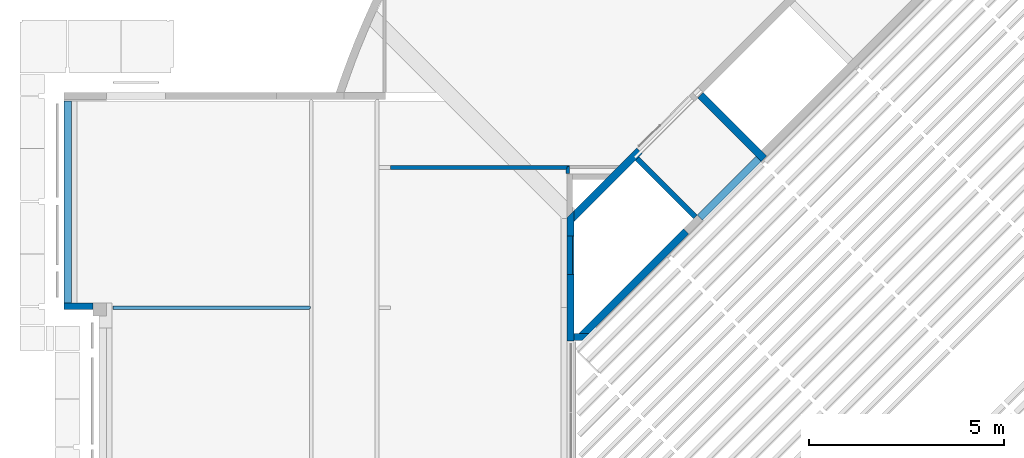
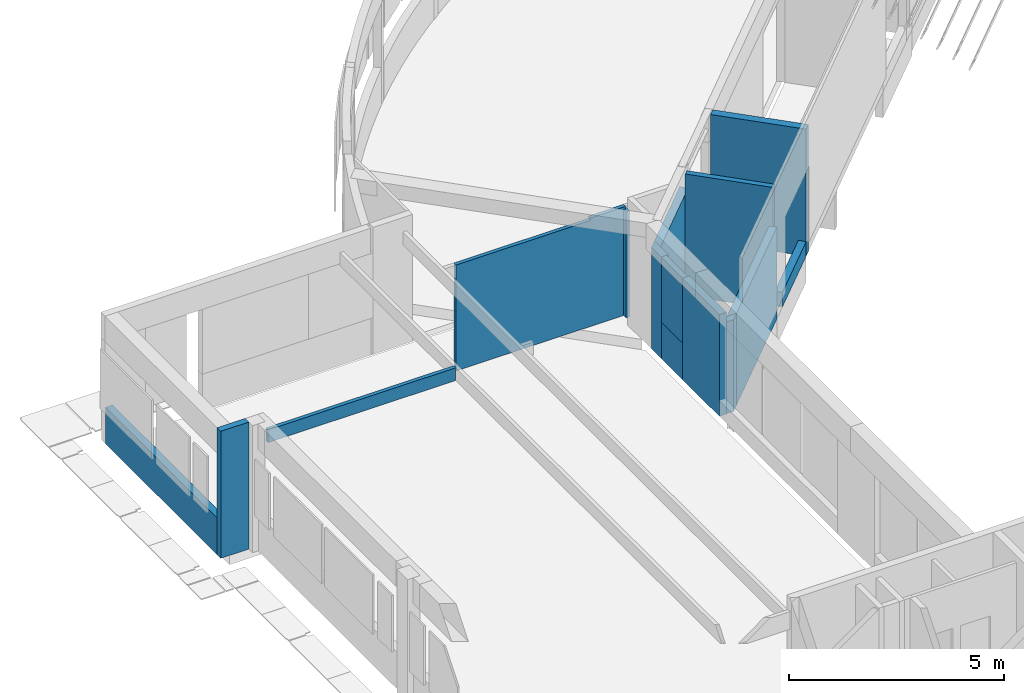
# One storey, part 26 of 37: 15 walls.
"""IFC4X3_ADD2 building model written with IfcOpenShell, lengths in millimetres."""

from ifc_helpers import new_model, si_unit, direction, frame, frame_2d, origin_with_axes, origin_2d_with_axis, place, context, subcontext, project, spatial, polyline, rectangle, outline, extrude, source, transform, mapped, material, type_object, type_shapes, element, save


model = new_model("IFC4X3_ADD2")

# Units and contexts
model_context = context("Model", 3, precision=1e-05, world=origin_with_axes(), true_north=direction((0.0, 1.0)))
body_context = subcontext(model_context, "Body", "Model", "MODEL_VIEW")
ifc_project = project(units=[si_unit("LENGTHUNIT", "METRE", prefix="MILLI"), si_unit("AREAUNIT", "SQUARE_METRE"), si_unit("VOLUMEUNIT", "CUBIC_METRE"), si_unit("PLANEANGLEUNIT", "RADIAN"), si_unit("TIMEUNIT", "SECOND"), si_unit("MASSUNIT", "GRAM")], contexts=[model_context])

# Site, building, storey
site_placement = place(None, origin_with_axes())
site = spatial("IfcSite", under=ifc_project, at=site_placement, Name="Site", CompositionType="ELEMENT")
building_placement = place(site_placement, origin_with_axes())
building = spatial("IfcBuilding", under=site, at=building_placement, Name="IFC Building Story")
storey_placement = place(building_placement, frame((0.0, 0.0, 3600.0), z_axis=(0.0, 0.0, 1.0), x_axis=(1.0, 0.0, 0.0)))
storey = spatial("IfcBuildingStorey", under=building, at=storey_placement, Name="010", Elevation=3600.0)

# Walls
ifc_material_1 = material(Name="BB_Beton_Bestaand")
wall_type_1 = type_object("IfcWallType", Name="BB_Beton_Bestaand 200", PredefinedType="NOTDEFINED", material=ifc_material_1)
wall_1_placement = place(storey_placement, origin_with_axes())
element("IfcWall", 1, at=wall_1_placement, inside=storey, type_object=wall_type_1, Name="Basic Wall:BB_XX_Wand uit beton, 200 mm", ObjectType="Basic Wall:BB_XX_Wand uit beton, 200 mm", PredefinedType="SOLIDWALL", context=body_context, shape_type="SweptSolid", body=[
    extrude(outline(polyline([(-838.7978912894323, -697.3765350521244), (768.0872131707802, 909.5085694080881), (909.5085694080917, 768.0872131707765), (-838.7978912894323, -980.2192475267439), (-838.7978912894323, -697.3765350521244)])), frame((-37766.20210871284, 28388.21347901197, -200.0), z_axis=(0.0, 0.0, 1.0), x_axis=(1.0, 0.0, 0.0)), (0.0, 0.0, 1.0), 2880.0),
])
wall_2_placement = place(storey_placement, origin_with_axes())
element("IfcWall", 2, at=wall_2_placement, inside=storey, type_object=wall_type_1, Name="Basic Wall:BB_XX_Wand uit beton, 200 mm", ObjectType="Basic Wall:BB_XX_Wand uit beton, 200 mm", PredefinedType="SOLIDWALL", context=body_context, shape_type="SweptSolid", body=[
    extrude(rectangle(XDim=2299.999999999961, YDim=199.9999999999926, at=frame_2d((0.0, 0.0), x_axis=(0.707106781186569, -0.707106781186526))), frame((-34551.52543263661, 29835.12320212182, -200.0), z_axis=(0.0, 0.0, 1.0), x_axis=(1.0, 0.0, 0.0)), (0.0, 0.0, 1.0), 3600.0),
])
wall_type_2 = type_object("IfcWallType", Name="BB_Beton_Bestaand 190", PredefinedType="NOTDEFINED", material=ifc_material_1)
wall_3_placement = place(storey_placement, origin_with_axes())
element("IfcWall", 3, at=wall_3_placement, inside=storey, type_object=wall_type_2, Name="Basic Wall:BB_XX_Wand uit beton, 190 mm", ObjectType="Basic Wall:BB_XX_Wand uit beton, 190 mm", PredefinedType="SOLIDWALL", context=body_context, shape_type="SweptSolid", body=[
    extrude(rectangle(XDim=5209.99999999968, YDim=189.9999999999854, at=frame_2d((0.0, 0.0), x_axis=(0.0, 1.0))), frame((-51600.0, 27899.99999999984, -200.0), z_axis=(0.0, 0.0, 1.0), x_axis=(1.0, 0.0, 0.0)), (0.0, 0.0, 1.0), 1040.0),
])
wall_4_placement = place(storey_placement, origin_with_axes())
element("IfcWall", 4, at=wall_4_placement, inside=storey, type_object=wall_type_2, Name="Basic Wall:BB_XX_Wand uit beton, 190 mm", ObjectType="Basic Wall:BB_XX_Wand uit beton, 190 mm", PredefinedType="SOLIDWALL", context=body_context, shape_type="SweptSolid", body=[
    extrude(rectangle(XDim=1710.0, YDim=190.0, at=frame_2d((0.0, 0.0), x_axis=(0.0, 1.0))), frame((-38700.0, 25200.0, -200.0), z_axis=(0.0, 0.0, 1.0), x_axis=(1.0, 0.0, 0.0)), (0.0, 0.0, 1.0), 2880.0),
])
wall_5_placement = place(storey_placement, origin_with_axes())
element("IfcWall", 5, at=wall_5_placement, inside=storey, type_object=wall_type_2, Name="Basic Wall:BB_XX_Wand uit beton, 190 mm", ObjectType="Basic Wall:BB_XX_Wand uit beton, 190 mm", PredefinedType="SOLIDWALL", context=body_context, shape_type="SweptSolid", body=[
    extrude(rectangle(XDim=990.0000000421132, YDim=190.0, at=frame_2d((0.0, 0.0), x_axis=(0.0, 1.0))), frame((-38700.0, 26549.99999997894, -200.0), z_axis=(0.0, 0.0, 1.0), x_axis=(1.0, 0.0, 0.0)), (0.0, 0.0, 1.0), 1040.0),
])
wall_6_placement = place(storey_placement, origin_with_axes())
element("IfcWall", 6, at=wall_6_placement, inside=storey, type_object=wall_type_2, Name="Basic Wall:BB_XX_Wand uit beton, 190 mm", ObjectType="Basic Wall:BB_XX_Wand uit beton, 190 mm", PredefinedType="SOLIDWALL", context=body_context, shape_type="SweptSolid", body=[
    extrude(outline(polyline([(-95.0, -275.4184719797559), (-95.0, 180.4184719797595), (95.0, 370.4184719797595), (95.0, -275.4184719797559), (-95.0, -275.4184719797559)])), frame((-38700.0, 27320.41847198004, -200.0), z_axis=(0.0, 0.0, 1.0), x_axis=(1.0, 0.0, 0.0)), (0.0, 0.0, 1.0), 2880.0),
])
wall_type_3 = type_object("IfcWallType", Name="BB_Beton_Bestaand 170", PredefinedType="NOTDEFINED", material=ifc_material_1)
wall_7_placement = place(storey_placement, origin_with_axes())
element("IfcWall", 7, at=wall_7_placement, inside=storey, type_object=wall_type_3, Name="Basic Wall:BB_XX_Wand uit beton, 170 mm", ObjectType="Basic Wall:BB_XX_Wand uit beton, 170 mm", PredefinedType="SOLIDWALL", context=body_context, shape_type="SweptSolid", body=[
    extrude(rectangle(XDim=750.0000000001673, YDim=169.9999999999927, at=origin_2d_with_axis()), frame((-51320.00000000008, 25240.0, -200.0), z_axis=(0.0, 0.0, 1.0), x_axis=(1.0, 0.0, 0.0)), (0.0, 0.0, 1.0), 3600.0),
])
ifc_material_2 = material(Name="BB_Metselwerk_Betonsteen")
wall_type_4 = type_object("IfcWallType", Name="BB_Metselwerk_Betonsteen 190", PredefinedType="NOTDEFINED", material=ifc_material_2)
wall_8_placement = place(storey_placement, origin_with_axes())
element("IfcWall", 8, at=wall_8_placement, inside=storey, type_object=wall_type_4, Name="Basic Wall:BB_03.09.24#03_Wand uit metselwerk, 190 mm", ObjectType="Basic Wall:BB_03.09.24#03_Wand uit metselwerk, 190 mm", PredefinedType="SOLIDWALL", context=body_context, shape_type="SweptSolid", body=[
    extrude(rectangle(XDim=2130.000000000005, YDim=190.0000000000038, at=frame_2d((0.0, 0.0), x_axis=(0.7071067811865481, 0.7071067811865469))), frame((-34629.30717856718, 28265.34614788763, -200.0), z_axis=(0.0, 0.0, 1.0), x_axis=(1.0, 0.0, 0.0)), (0.0, 0.0, 1.0), 415.0),
])
wall_9_placement = place(storey_placement, origin_with_axes())
element("IfcWall", 9, at=wall_9_placement, inside=storey, type_object=wall_type_4, Name="Basic Wall:BB_03.09.24#05_Wand uit metselwerk_EI60, 190 mm", ObjectType="Basic Wall:BB_03.09.24#05_Wand uit metselwerk_EI60, 190 mm", PredefinedType="SOLIDWALL", context=body_context, shape_type="SweptSolid", body=[
    extrude(outline(polyline([(1374.038662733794, 1239.688374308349), (-1172.513230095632, -1306.863518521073), (-1441.213806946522, -1306.863518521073), (1239.688374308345, 1374.038662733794), (1374.038662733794, 1239.688374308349)])), frame((-37042.7898079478, 25851.8635185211, -200.0), z_axis=(0.0, 0.0, 1.0), x_axis=(1.0, 0.0, 0.0)), (0.0, 0.0, 1.0), 2600.0),
])
wall_type_5 = type_object("IfcWallType", Name="BB_Metselwerk_Betonsteen 0", PredefinedType="NOTDEFINED", material=ifc_material_2)
wall_10_placement = place(storey_placement, origin_with_axes())
element("IfcWall", 10, at=wall_10_placement, inside=storey, type_object=wall_type_5, Name="Basic Wall:BB_03.09.24#05_Wand uit metselwerk_EI60, 190 mm", ObjectType="Basic Wall:BB_03.09.24#05_Wand uit metselwerk_EI60, 190 mm", PredefinedType="SOLIDWALL", context=body_context, shape_type="SweptSolid", body=[
    extrude(outline(polyline([(-147.3484809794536, 95.0), (242.3484809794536, 95.0), (52.3484809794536, -95.0), (-147.3484809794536, -95.0), (-147.3484809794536, 95.0)])), frame((-38457.65151902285, 24450.0, -200.0), z_axis=(0.0, 0.0, 1.0), x_axis=(1.0, 0.0, 0.0)), (0.0, 0.0, 1.0), 2600.0),
])
wall_type_6 = type_object("IfcWallType", Name="Basic Wall_BB_10.01.41#01_Gipskartonwand_MS100 _ 25.50.25_ 100 mm27", PredefinedType="NOTDEFINED")
shared_shape_1 = source(origin_with_axes(), body_context, "Body", "SweptSolid", [
    extrude(outline(polyline([(-1333.020271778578, -733.7500000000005), (-1333.020271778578, 2271.25), (3161.979728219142, 2271.25), (3161.979728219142, -733.7500000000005), (-445.9391846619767, -733.7500000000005), (-445.9391846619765, -803.7500000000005), (-1383.020271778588, -803.7500000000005), (-1383.020271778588, -733.7500000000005), (-1333.020271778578, -733.7500000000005)])), frame((1383.020271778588, 37.4999999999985, 2271.25), z_axis=(0.0, 1.0, 0.0), x_axis=(1.0, 0.0, 0.0)), (0.0, 0.0, 1.0), 12.5000000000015),
    extrude(outline(polyline([(-1342.395271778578, -733.7500000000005), (-1342.395271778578, 2271.25), (3165.104728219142, 2271.25), (3165.104728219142, -733.7500000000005), (-442.8141846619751, -733.7500000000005), (-442.8141846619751, -803.7500000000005), (-1379.895271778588, -803.7500000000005), (-1379.895271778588, -733.7500000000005), (-1342.395271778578, -733.7500000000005)])), frame((1379.895271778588, 24.9999999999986, 2271.25), z_axis=(0.0, 1.0, 0.0), x_axis=(1.0, 0.0, 0.0)), (0.0, 0.0, 1.0), 12.5000000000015),
    extrude(outline(polyline([(-1351.77027177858, -733.7500000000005), (-1351.77027177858, 2271.25), (3168.22972821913, 2271.25), (3168.22972821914, -733.7500000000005), (-439.6891846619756, -733.7500000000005), (-439.6891846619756, -803.7500000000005), (-1376.77027177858, -803.7500000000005), (-1376.77027177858, -733.7500000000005), (-1351.77027177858, -733.7500000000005)])), frame((1376.77027177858, -24.9999999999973, 2271.25), z_axis=(0.0, 1.0, 0.0), x_axis=(1.0, 0.0, 0.0)), (0.0, 0.0, 1.0), 49.9999999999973),
    extrude(outline(polyline([(-1389.270271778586, -733.7500000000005), (-1389.270271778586, 2271.25), (3180.729728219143, 2271.25), (3180.729728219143, -733.7500000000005), (-427.1891846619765, -733.7500000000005), (-427.1891846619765, -803.7500000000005), (-1364.270271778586, -803.7500000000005), (-1364.270271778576, -733.7500000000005), (-1389.270271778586, -733.7500000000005)])), frame((1364.270271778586, -37.5000000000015, 2271.25), z_axis=(0.0, 1.0, 0.0), x_axis=(1.0, 0.0, 0.0)), (0.0, 0.0, 1.0), 12.5000000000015),
    extrude(outline(polyline([(-1398.645271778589, -733.7500000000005), (-1398.645271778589, 2271.25), (3183.854728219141, 2271.25), (3183.854728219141, -733.7500000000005), (-424.0641846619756, -733.7500000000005), (-424.0641846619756, -803.7500000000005), (-1361.145271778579, -803.7500000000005), (-1361.145271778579, -733.7500000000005), (-1398.645271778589, -733.7500000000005)])), frame((1361.145271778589, -49.9999999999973, 2271.25), z_axis=(0.0, 1.0, 0.0), x_axis=(1.0, 0.0, 0.0)), (0.0, 0.0, 1.0), 12.49999999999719),
])
type_shapes(wall_type_6, [shared_shape_1])
wall_11_placement = place(storey_placement, frame((-38770.0, 28800.0, -5.0), z_axis=(0.0, 0.0, 1.0), x_axis=(-1.0, 0.0, 0.0)))
element("IfcWall", 11, at=wall_11_placement, inside=storey, type_object=wall_type_6, Name="Basic Wall:BB_10.01.41#01_Gipskartonwand_MS100 / 25.50.25, 100 mm", ObjectType="Basic Wall:BB_10.01.41#01_Gipskartonwand_MS100 / 25.50.25, 100 mm", PredefinedType="PARTITIONING", context=body_context, shape_type="MappedRepresentation", body=[
    mapped(shared_shape_1, transform((0.0, 0.0, 0.0))),
])
wall_type_7 = type_object("IfcWallType", Name="Basic Wall_BB_10.01.41#01_Gipskartonwand_MS100 _ 25.50.25_ 100 mm63", PredefinedType="NOTDEFINED")
shared_shape_2 = source(origin_with_axes(), body_context, "Body", "SweptSolid", [
    extrude(rectangle(XDim=5029.99999999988, YDim=12.50000000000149, at=origin_2d_with_axis()), frame((2515.0, 43.74999999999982, 0.0), z_axis=(0.0, 0.0, 1.0), x_axis=(1.0, 0.0, 0.0)), (0.0, 0.0, 1.0), 360.0),
    extrude(rectangle(XDim=5042.49999999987, YDim=12.50000000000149, at=origin_2d_with_axis()), frame((2521.249999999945, 31.24999999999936, 0.0), z_axis=(0.0, 0.0, 1.0), x_axis=(1.0, 0.0, 0.0)), (0.0, 0.0, 1.0), 360.0),
    extrude(rectangle(XDim=5054.99999999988, YDim=49.9999999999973, at=origin_2d_with_axis()), frame((2527.49999999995, 0.0, 0.0), z_axis=(0.0, 0.0, 1.0), x_axis=(1.0, 0.0, 0.0)), (0.0, 0.0, 1.0), 360.0),
    extrude(rectangle(XDim=5029.99999999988, YDim=12.50000000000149, at=origin_2d_with_axis()), frame((2515.0, -31.24999999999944, 0.0), z_axis=(0.0, 0.0, 1.0), x_axis=(1.0, 0.0, 0.0)), (0.0, 0.0, 1.0), 360.0),
    extrude(rectangle(XDim=5029.99999999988, YDim=12.49999999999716, at=origin_2d_with_axis()), frame((2515.0, -43.74999999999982, 0.0), z_axis=(0.0, 0.0, 1.0), x_axis=(1.0, 0.0, 0.0)), (0.0, 0.0, 1.0), 360.0),
])
type_shapes(wall_type_7, [shared_shape_2])
wall_12_placement = place(storey_placement, frame((-50430.0, 25200.0, 2640.0), z_axis=(0.0, 0.0, 1.0), x_axis=(1.0, 0.0, 0.0)))
element("IfcWall", 12, at=wall_12_placement, inside=storey, type_object=wall_type_7, Name="Basic Wall:BB_10.01.41#01_Gipskartonwand_MS100 / 25.50.25, 100 mm", ObjectType="Basic Wall:BB_10.01.41#01_Gipskartonwand_MS100 / 25.50.25, 100 mm", PredefinedType="PARTITIONING", context=body_context, shape_type="MappedRepresentation", body=[
    mapped(shared_shape_2, transform((0.0, 0.0, 0.0))),
])
wall_type_8 = type_object("IfcWallType", Name="Basic Wall_BB_10.01.41#03_Gipskartonwand_43dB_MS100 _ 25.50.25_ 100 mm55", PredefinedType="NOTDEFINED")
shared_shape_3 = source(origin_with_axes(), body_context, "Body", "SweptSolid", [
    extrude(rectangle(XDim=123.5000000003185, YDim=12.50000000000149, at=origin_2d_with_axis()), frame((61.75000000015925, 43.74999999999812, 0.0), z_axis=(0.0, 0.0, 1.0), x_axis=(1.0, 0.0, 0.0)), (0.0, 0.0, 1.0), 3005.0),
    extrude(rectangle(XDim=136.0000000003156, YDim=12.50000000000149, at=origin_2d_with_axis()), frame((68.0, 31.24999999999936, 0.0), z_axis=(0.0, 0.0, 1.0), x_axis=(1.0, 0.0, 0.0)), (0.0, 0.0, 1.0), 3005.0),
    extrude(rectangle(XDim=186.0000000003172, YDim=49.9999999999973, at=origin_2d_with_axis()), frame((92.99999999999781, -4.348521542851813e-12, 0.0), z_axis=(0.0, 0.0, 1.0), x_axis=(1.0, 0.0, 0.0)), (0.0, 0.0, 1.0), 3005.0),
    extrude(rectangle(XDim=198.5000000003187, YDim=12.50000000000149, at=origin_2d_with_axis()), frame((99.25000000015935, -31.24999999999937, 0.0), z_axis=(0.0, 0.0, 1.0), x_axis=(1.0, 0.0, 0.0)), (0.0, 0.0, 1.0), 3005.0),
    extrude(rectangle(XDim=211.0000000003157, YDim=12.49999999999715, at=origin_2d_with_axis()), frame((105.5000000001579, -43.75000000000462, 0.0), z_axis=(0.0, 0.0, 1.0), x_axis=(1.0, 0.0, 0.0)), (0.0, 0.0, 1.0), 3005.0),
])
type_shapes(wall_type_8, [shared_shape_3])
wall_13_placement = place(storey_placement, frame((-38770.0, 28639.0, -5.0), z_axis=(0.0, 0.0, 1.0), x_axis=(0.0, 1.0, 0.0)))
element("IfcWall", 13, at=wall_13_placement, inside=storey, type_object=wall_type_8, Name="Basic Wall:BB_10.01.41#03_Gipskartonwand_43dB_MS100 / 25.50.25, 100 mm", ObjectType="Basic Wall:BB_10.01.41#03_Gipskartonwand_43dB_MS100 / 25.50.25, 100 mm", PredefinedType="PARTITIONING", context=body_context, shape_type="MappedRepresentation", body=[
    mapped(shared_shape_3, transform((0.0, 0.0, 0.0))),
])
wall_type_9 = type_object("IfcWallType", Name="BB_Metselwerk_Betonsteen 140", PredefinedType="NOTDEFINED", material=ifc_material_2)
wall_14_placement = place(storey_placement, origin_with_axes())
element("IfcWall", 14, at=wall_14_placement, inside=storey, type_object=wall_type_9, Name="Basic Wall:BB_03.09.24#02_Wand uit metselwerk_EI60_43dB, 140 mm", ObjectType="Basic Wall:BB_03.09.24#02_Wand uit metselwerk_EI60_43dB, 140 mm", PredefinedType="SOLIDWALL", context=body_context, shape_type="SweptSolid", body=[
    extrude(rectangle(XDim=2110.02661785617, YDim=140.0000000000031, at=frame_2d((0.0, 0.0), x_axis=(-0.7071067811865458, 0.7071067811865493))), frame((-36245.0367627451, 28275.94333877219, -200.0), z_axis=(0.0, 0.0, 1.0), x_axis=(1.0, 0.0, 0.0)), (0.0, 0.0, 1.0), 3450.0),
])
wall_15_placement = place(storey_placement, origin_with_axes())
element("IfcWall", 15, at=wall_15_placement, inside=storey, type_object=wall_type_9, Name="Basic Wall:BB_03.09.24#02_Wand uit metselwerk_EI60_43dB, 140 mm", ObjectType="Basic Wall:BB_03.09.24#02_Wand uit metselwerk_EI60_43dB, 140 mm", PredefinedType="SOLIDWALL", context=body_context, shape_type="SweptSolid", body=[
    extrude(rectangle(XDim=990.0000000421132, YDim=140.0, at=frame_2d((0.0, 0.0), x_axis=(0.0, 1.0))), frame((-38725.0, 26550.00000002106, 840.0), z_axis=(0.0, 0.0, 1.0), x_axis=(1.0, 0.0, 0.0)), (0.0, 0.0, 1.0), 1840.0),
])

save(model, "model.ifc")
